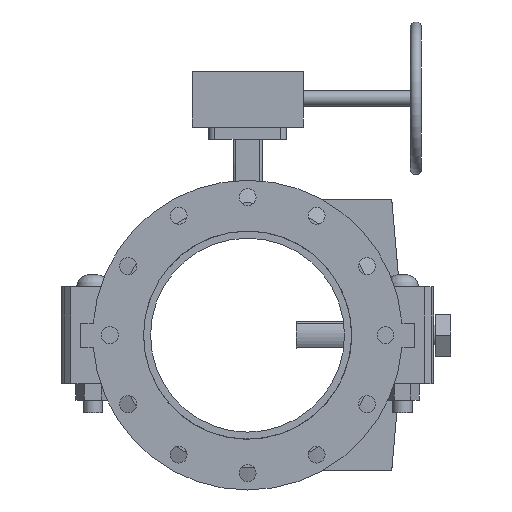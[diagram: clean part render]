
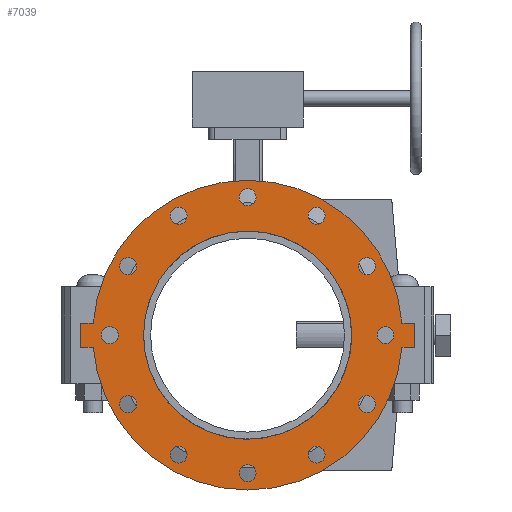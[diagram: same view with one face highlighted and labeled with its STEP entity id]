
A CAD part, front view. The second image highlights one B-rep face of the part: STEP entity #7039.
In plain terms, the highlighted planar face has unit normal (0, -1, 0) as drawn and (0, 0, -1) by its records, which use the part's own axes.
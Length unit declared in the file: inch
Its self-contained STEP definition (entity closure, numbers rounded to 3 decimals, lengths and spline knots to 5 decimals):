
#170=FACE_BOUND('',#914,.T.);
#171=FACE_BOUND('',#915,.T.);
#172=FACE_BOUND('',#916,.T.);
#173=FACE_BOUND('',#917,.T.);
#174=FACE_BOUND('',#918,.T.);
#175=FACE_BOUND('',#919,.T.);
#176=FACE_BOUND('',#920,.T.);
#177=FACE_BOUND('',#921,.T.);
#178=FACE_BOUND('',#922,.T.);
#179=FACE_BOUND('',#923,.T.);
#180=FACE_BOUND('',#924,.T.);
#181=FACE_BOUND('',#925,.T.);
#182=FACE_BOUND('',#926,.T.);
#273=PLANE('',#7664);
#523=FACE_OUTER_BOUND('',#913,.T.);
#913=EDGE_LOOP('',(#4560,#4561,#4562,#4563,#4564,#4565,#4566,#4567));
#914=EDGE_LOOP('',(#4568));
#915=EDGE_LOOP('',(#4569));
#916=EDGE_LOOP('',(#4570));
#917=EDGE_LOOP('',(#4571));
#918=EDGE_LOOP('',(#4572));
#919=EDGE_LOOP('',(#4573));
#920=EDGE_LOOP('',(#4574));
#921=EDGE_LOOP('',(#4575));
#922=EDGE_LOOP('',(#4576));
#923=EDGE_LOOP('',(#4577));
#924=EDGE_LOOP('',(#4578));
#925=EDGE_LOOP('',(#4579));
#926=EDGE_LOOP('',(#4580,#4581));
#1406=LINE('',#10705,#1925);
#1407=LINE('',#10707,#1926);
#1408=LINE('',#10709,#1927);
#1409=LINE('',#10713,#1928);
#1410=LINE('',#10715,#1929);
#1411=LINE('',#10716,#1930);
#1925=VECTOR('',#8545,0.3937);
#1926=VECTOR('',#8546,0.3937);
#1927=VECTOR('',#8547,0.3937);
#1928=VECTOR('',#8550,0.3937);
#1929=VECTOR('',#8551,0.3937);
#1930=VECTOR('',#8552,0.3937);
#2433=CIRCLE('',#7630,0.4375);
#2435=CIRCLE('',#7633,0.4375);
#2437=CIRCLE('',#7636,0.4375);
#2439=CIRCLE('',#7639,0.4375);
#2441=CIRCLE('',#7642,0.4375);
#2443=CIRCLE('',#7645,0.4375);
#2445=CIRCLE('',#7648,0.4375);
#2447=CIRCLE('',#7651,0.4375);
#2449=CIRCLE('',#7654,0.4375);
#2451=CIRCLE('',#7657,0.4375);
#2453=CIRCLE('',#7660,0.4375);
#2455=CIRCLE('',#7663,0.4375);
#2456=CIRCLE('',#7665,8.);
#2457=CIRCLE('',#7666,8.);
#2458=CIRCLE('',#7667,5.375);
#2459=CIRCLE('',#7668,5.375);
#2840=VERTEX_POINT('',#10631);
#2842=VERTEX_POINT('',#10637);
#2844=VERTEX_POINT('',#10643);
#2846=VERTEX_POINT('',#10649);
#2848=VERTEX_POINT('',#10655);
#2850=VERTEX_POINT('',#10661);
#2852=VERTEX_POINT('',#10667);
#2854=VERTEX_POINT('',#10673);
#2856=VERTEX_POINT('',#10679);
#2858=VERTEX_POINT('',#10685);
#2860=VERTEX_POINT('',#10691);
#2862=VERTEX_POINT('',#10697);
#2863=VERTEX_POINT('',#10701);
#2864=VERTEX_POINT('',#10702);
#2865=VERTEX_POINT('',#10704);
#2866=VERTEX_POINT('',#10706);
#2867=VERTEX_POINT('',#10708);
#2868=VERTEX_POINT('',#10710);
#2869=VERTEX_POINT('',#10712);
#2870=VERTEX_POINT('',#10714);
#2871=VERTEX_POINT('',#10717);
#2872=VERTEX_POINT('',#10718);
#3520=EDGE_CURVE('',#2840,#2840,#2433,.T.);
#3523=EDGE_CURVE('',#2842,#2842,#2435,.T.);
#3526=EDGE_CURVE('',#2844,#2844,#2437,.T.);
#3529=EDGE_CURVE('',#2846,#2846,#2439,.T.);
#3532=EDGE_CURVE('',#2848,#2848,#2441,.T.);
#3535=EDGE_CURVE('',#2850,#2850,#2443,.T.);
#3538=EDGE_CURVE('',#2852,#2852,#2445,.T.);
#3541=EDGE_CURVE('',#2854,#2854,#2447,.T.);
#3544=EDGE_CURVE('',#2856,#2856,#2449,.T.);
#3547=EDGE_CURVE('',#2858,#2858,#2451,.T.);
#3550=EDGE_CURVE('',#2860,#2860,#2453,.T.);
#3553=EDGE_CURVE('',#2862,#2862,#2455,.T.);
#3554=EDGE_CURVE('',#2863,#2864,#2456,.T.);
#3555=EDGE_CURVE('',#2864,#2865,#1406,.T.);
#3556=EDGE_CURVE('',#2865,#2866,#1407,.T.);
#3557=EDGE_CURVE('',#2866,#2867,#1408,.T.);
#3558=EDGE_CURVE('',#2867,#2868,#2457,.T.);
#3559=EDGE_CURVE('',#2868,#2869,#1409,.T.);
#3560=EDGE_CURVE('',#2869,#2870,#1410,.T.);
#3561=EDGE_CURVE('',#2870,#2863,#1411,.T.);
#3562=EDGE_CURVE('',#2871,#2872,#2458,.T.);
#3563=EDGE_CURVE('',#2872,#2871,#2459,.T.);
#4560=ORIENTED_EDGE('',*,*,#3554,.T.);
#4561=ORIENTED_EDGE('',*,*,#3555,.T.);
#4562=ORIENTED_EDGE('',*,*,#3556,.T.);
#4563=ORIENTED_EDGE('',*,*,#3557,.T.);
#4564=ORIENTED_EDGE('',*,*,#3558,.T.);
#4565=ORIENTED_EDGE('',*,*,#3559,.T.);
#4566=ORIENTED_EDGE('',*,*,#3560,.T.);
#4567=ORIENTED_EDGE('',*,*,#3561,.T.);
#4568=ORIENTED_EDGE('',*,*,#3520,.T.);
#4569=ORIENTED_EDGE('',*,*,#3523,.T.);
#4570=ORIENTED_EDGE('',*,*,#3526,.T.);
#4571=ORIENTED_EDGE('',*,*,#3529,.T.);
#4572=ORIENTED_EDGE('',*,*,#3532,.T.);
#4573=ORIENTED_EDGE('',*,*,#3535,.T.);
#4574=ORIENTED_EDGE('',*,*,#3538,.T.);
#4575=ORIENTED_EDGE('',*,*,#3541,.T.);
#4576=ORIENTED_EDGE('',*,*,#3544,.T.);
#4577=ORIENTED_EDGE('',*,*,#3547,.T.);
#4578=ORIENTED_EDGE('',*,*,#3550,.T.);
#4579=ORIENTED_EDGE('',*,*,#3553,.T.);
#4580=ORIENTED_EDGE('',*,*,#3562,.T.);
#4581=ORIENTED_EDGE('',*,*,#3563,.T.);
#7039=ADVANCED_FACE('',(#523,#170,#171,#172,#173,#174,#175,#176,#177,#178,
#179,#180,#181,#182),#273,.T.);
#7630=AXIS2_PLACEMENT_3D('',#10633,#8462,#8463);
#7633=AXIS2_PLACEMENT_3D('',#10639,#8469,#8470);
#7636=AXIS2_PLACEMENT_3D('',#10645,#8476,#8477);
#7639=AXIS2_PLACEMENT_3D('',#10651,#8483,#8484);
#7642=AXIS2_PLACEMENT_3D('',#10657,#8490,#8491);
#7645=AXIS2_PLACEMENT_3D('',#10663,#8497,#8498);
#7648=AXIS2_PLACEMENT_3D('',#10669,#8504,#8505);
#7651=AXIS2_PLACEMENT_3D('',#10675,#8511,#8512);
#7654=AXIS2_PLACEMENT_3D('',#10681,#8518,#8519);
#7657=AXIS2_PLACEMENT_3D('',#10687,#8525,#8526);
#7660=AXIS2_PLACEMENT_3D('',#10693,#8532,#8533);
#7663=AXIS2_PLACEMENT_3D('',#10699,#8539,#8540);
#7664=AXIS2_PLACEMENT_3D('',#10700,#8541,#8542);
#7665=AXIS2_PLACEMENT_3D('',#10703,#8543,#8544);
#7666=AXIS2_PLACEMENT_3D('',#10711,#8548,#8549);
#7667=AXIS2_PLACEMENT_3D('',#10719,#8553,#8554);
#7668=AXIS2_PLACEMENT_3D('',#10720,#8555,#8556);
#8462=DIRECTION('center_axis',(0.,0.,1.));
#8463=DIRECTION('ref_axis',(-0.866,0.5,0.));
#8469=DIRECTION('center_axis',(0.,0.,1.));
#8470=DIRECTION('ref_axis',(-0.5,0.866,0.));
#8476=DIRECTION('center_axis',(0.,0.,1.));
#8477=DIRECTION('ref_axis',(0.,1.,0.));
#8483=DIRECTION('center_axis',(0.,0.,1.));
#8484=DIRECTION('ref_axis',(0.5,0.866,0.));
#8490=DIRECTION('center_axis',(0.,0.,1.));
#8491=DIRECTION('ref_axis',(0.866,0.5,0.));
#8497=DIRECTION('center_axis',(0.,0.,1.));
#8498=DIRECTION('ref_axis',(1.,0.,0.));
#8504=DIRECTION('center_axis',(0.,0.,1.));
#8505=DIRECTION('ref_axis',(0.866,-0.5,0.));
#8511=DIRECTION('center_axis',(0.,0.,1.));
#8512=DIRECTION('ref_axis',(0.5,-0.866,0.));
#8518=DIRECTION('center_axis',(0.,0.,1.));
#8519=DIRECTION('ref_axis',(0.,-1.,0.));
#8525=DIRECTION('center_axis',(0.,0.,1.));
#8526=DIRECTION('ref_axis',(-0.5,-0.866,0.));
#8532=DIRECTION('center_axis',(0.,0.,1.));
#8533=DIRECTION('ref_axis',(-0.866,-0.5,0.));
#8539=DIRECTION('center_axis',(0.,0.,1.));
#8540=DIRECTION('ref_axis',(-1.,0.,0.));
#8541=DIRECTION('center_axis',(0.,0.,-1.));
#8542=DIRECTION('ref_axis',(-1.,0.,0.));
#8543=DIRECTION('center_axis',(0.,0.,-1.));
#8544=DIRECTION('ref_axis',(-1.,0.,0.));
#8545=DIRECTION('',(0.,1.,0.));
#8546=DIRECTION('',(1.,0.,0.));
#8547=DIRECTION('',(0.,-1.,0.));
#8548=DIRECTION('center_axis',(0.,0.,-1.));
#8549=DIRECTION('ref_axis',(-1.,0.,0.));
#8550=DIRECTION('',(0.,-1.,0.));
#8551=DIRECTION('',(-1.,0.,0.));
#8552=DIRECTION('',(0.,1.,0.));
#8553=DIRECTION('center_axis',(0.,0.,1.));
#8554=DIRECTION('ref_axis',(-1.,0.,0.));
#8555=DIRECTION('center_axis',(0.,0.,1.));
#8556=DIRECTION('ref_axis',(-1.,0.,0.));
#10631=CARTESIAN_POINT('',(-5.79154,3.34375,-0.625));
#10633=CARTESIAN_POINT('Origin',(-6.17043,3.5625,-0.625));
#10637=CARTESIAN_POINT('',(-3.34375,5.79154,-0.625));
#10639=CARTESIAN_POINT('Origin',(-3.5625,6.17043,-0.625));
#10643=CARTESIAN_POINT('',(0.,6.6875,-0.625));
#10645=CARTESIAN_POINT('Origin',(0.,7.125,-0.625));
#10649=CARTESIAN_POINT('',(3.34375,5.79154,-0.625));
#10651=CARTESIAN_POINT('Origin',(3.5625,6.17043,-0.625));
#10655=CARTESIAN_POINT('',(5.79154,3.34375,-0.625));
#10657=CARTESIAN_POINT('Origin',(6.17043,3.5625,-0.625));
#10661=CARTESIAN_POINT('',(6.6875,0.,-0.625));
#10663=CARTESIAN_POINT('Origin',(7.125,0.,-0.625));
#10667=CARTESIAN_POINT('',(5.79154,-3.34375,-0.625));
#10669=CARTESIAN_POINT('Origin',(6.17043,-3.5625,-0.625));
#10673=CARTESIAN_POINT('',(3.34375,-5.79154,-0.625));
#10675=CARTESIAN_POINT('Origin',(3.5625,-6.17043,-0.625));
#10679=CARTESIAN_POINT('',(0.,-6.6875,-0.625));
#10681=CARTESIAN_POINT('Origin',(0.,-7.125,-0.625));
#10685=CARTESIAN_POINT('',(-3.34375,-5.79154,-0.625));
#10687=CARTESIAN_POINT('Origin',(-3.5625,-6.17043,-0.625));
#10691=CARTESIAN_POINT('',(-5.79154,-3.34375,-0.625));
#10693=CARTESIAN_POINT('Origin',(-6.17043,-3.5625,-0.625));
#10697=CARTESIAN_POINT('',(-6.6875,0.,-0.625));
#10699=CARTESIAN_POINT('Origin',(-7.125,0.,-0.625));
#10700=CARTESIAN_POINT('Origin',(0.,0.,-0.625));
#10701=CARTESIAN_POINT('',(-0.625,-7.97555,-0.625));
#10702=CARTESIAN_POINT('',(-0.625,7.97555,-0.625));
#10703=CARTESIAN_POINT('Origin',(0.,0.,-0.625));
#10704=CARTESIAN_POINT('',(-0.625,8.625,-0.625));
#10705=CARTESIAN_POINT('',(-0.625,-8.625,-0.625));
#10706=CARTESIAN_POINT('',(0.625,8.625,-0.625));
#10707=CARTESIAN_POINT('',(-0.625,8.625,-0.625));
#10708=CARTESIAN_POINT('',(0.625,7.97555,-0.625));
#10709=CARTESIAN_POINT('',(0.625,8.625,-0.625));
#10710=CARTESIAN_POINT('',(0.625,-7.97555,-0.625));
#10711=CARTESIAN_POINT('Origin',(0.,0.,-0.625));
#10712=CARTESIAN_POINT('',(0.625,-8.625,-0.625));
#10713=CARTESIAN_POINT('',(0.625,8.625,-0.625));
#10714=CARTESIAN_POINT('',(-0.625,-8.625,-0.625));
#10715=CARTESIAN_POINT('',(0.625,-8.625,-0.625));
#10716=CARTESIAN_POINT('',(-0.625,-8.625,-0.625));
#10717=CARTESIAN_POINT('',(0.625,5.33854,-0.625));
#10718=CARTESIAN_POINT('',(5.375,0.,-0.625));
#10719=CARTESIAN_POINT('Origin',(0.,0.,-0.625));
#10720=CARTESIAN_POINT('Origin',(0.,0.,-0.625));
